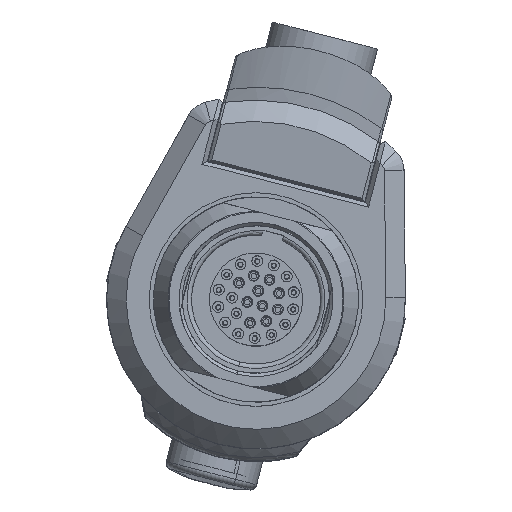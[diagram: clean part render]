
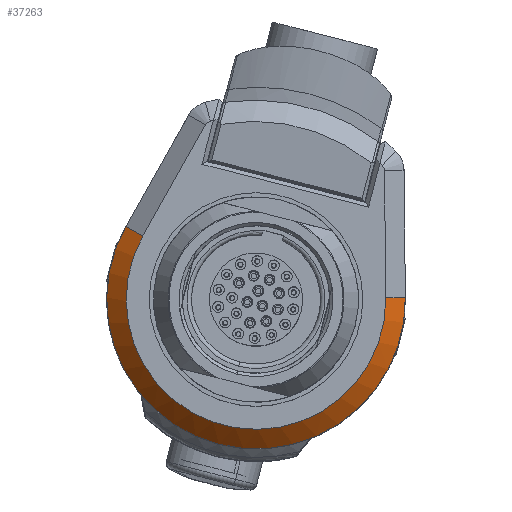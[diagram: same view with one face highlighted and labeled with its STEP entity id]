
A CAD part, top view. The second image highlights one B-rep face of the part: STEP entity #37263.
In plain terms, the highlighted conical face has half-angle 45 degrees and reference radius 17.462 mm.
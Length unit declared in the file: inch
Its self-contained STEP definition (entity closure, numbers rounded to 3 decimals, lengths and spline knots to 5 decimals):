
#3411 = CARTESIAN_POINT ( 'NONE',  ( 0.30293, -0.3706, 4.19649 ) ) ;
#3412 = CARTESIAN_POINT ( 'NONE',  ( 0.27294, -0.37097, 4.22649 ) ) ;
#3413 = CARTESIAN_POINT ( 'NONE',  ( 0.24294, -0.37133, 4.25649 ) ) ;
#3414 = CARTESIAN_POINT ( 'NONE',  ( 0.21294, -0.3717, 4.28649 ) ) ;
#3416 = LINE ( 'NONE', #3417, #42519 ) ;
#3417 = CARTESIAN_POINT ( 'NONE',  ( -0.98336, -0.04264, 4.19649 ) ) ;
#3418 = DIRECTION ( 'NONE',  ( 0.616, -0.347, 0.707 ) ) ;
#9686 = CARTESIAN_POINT ( 'NONE',  ( -0.3845, -0.38031, 4.19649 ) ) ;
#9687 = DIRECTION ( 'NONE',  ( 0., 0., -1. ) ) ;
#9688 = DIRECTION ( 'NONE',  ( 0.249, 0.969, 0. ) ) ;
#9877 = CARTESIAN_POINT ( 'NONE',  ( -0.3845, -0.38031, 4.28649 ) ) ;
#9884 = DIRECTION ( 'NONE',  ( 0., 0., 1. ) ) ;
#9885 = DIRECTION ( 'NONE',  ( 0.249, 0.969, 0. ) ) ;
#30259 = CARTESIAN_POINT ( 'NONE',  ( -0.3845, -0.38031, 4.19649 ) ) ;
#30260 = DIRECTION ( 'NONE',  ( 0., 0., -1. ) ) ;
#30261 = DIRECTION ( 'NONE',  ( 0.249, 0.969, 0. ) ) ;
#33279 = CIRCLE ( 'NONE', #42515, 0.6875 ) ;
#33301 = CIRCLE ( 'NONE', #42473, 0.5975 ) ;
#33350 = CIRCLE ( 'NONE', #68041, 0.6875 ) ;
#33581 = CONICAL_SURFACE ( 'NONE', #57427, 0.6875, 0.785 ) ;
#34198 = EDGE_CURVE ( 'NONE', #72217, #72455, #66418, .T. ) ;
#34199 = EDGE_CURVE ( 'NONE', #57899, #72449, #3416, .T. ) ;
#34210 = EDGE_CURVE ( 'NONE', #72217, #57903, #33279, .T. ) ;
#34269 = EDGE_CURVE ( 'NONE', #72449, #72455, #33301, .T. ) ;
#34500 = EDGE_CURVE ( 'NONE', #57903, #57899, #33350, .T. ) ;
#37263 = ADVANCED_FACE ( 'NONE', ( #57429 ), #33581, .T. ) ;
#42473 = AXIS2_PLACEMENT_3D ( 'NONE', #9877, #9884, #9885 ) ;
#42515 = AXIS2_PLACEMENT_3D ( 'NONE', #9686, #9687, #9688 ) ;
#42519 = VECTOR ( 'NONE', #3418, 39.37008 ) ;
#45298 = ORIENTED_EDGE ( 'NONE', *, *, #34210, .F. ) ;
#45300 = ORIENTED_EDGE ( 'NONE', *, *, #34199, .F. ) ;
#45302 = ORIENTED_EDGE ( 'NONE', *, *, #34198, .T. ) ;
#45303 = ORIENTED_EDGE ( 'NONE', *, *, #34500, .F. ) ;
#45305 = ORIENTED_EDGE ( 'NONE', *, *, #34269, .F. ) ;
#51159 = CARTESIAN_POINT ( 'NONE',  ( -0.98336, -0.04264, 4.19649 ) ) ;
#51162 = CARTESIAN_POINT ( 'NONE',  ( -0.55566, -1.04616, 4.19649 ) ) ;
#54147 = CARTESIAN_POINT ( 'NONE',  ( -0.3845, -0.38031, 4.19649 ) ) ;
#54148 = DIRECTION ( 'NONE',  ( 0., 0., -1. ) ) ;
#54149 = DIRECTION ( 'NONE',  ( 0.249, 0.969, 0. ) ) ;
#57427 = AXIS2_PLACEMENT_3D ( 'NONE', #54147, #54148, #54149 ) ;
#57429 = FACE_OUTER_BOUND ( 'NONE', #61160, .T. ) ;
#57899 = VERTEX_POINT ( 'NONE', #51159 ) ;
#57903 = VERTEX_POINT ( 'NONE', #51162 ) ;
#61160 = EDGE_LOOP ( 'NONE', ( #45302, #45305, #45300, #45303, #45298 ) ) ;
#66418 = B_SPLINE_CURVE_WITH_KNOTS ( 'NONE', 3,
 ( #3411, #3412, #3413, #3414 ),
 .UNSPECIFIED., .F., .F.,
 ( 4, 4 ),
 ( 0., 0.00323 ),
 .UNSPECIFIED. ) ;
#66518 = CARTESIAN_POINT ( 'NONE',  ( 0.30293, -0.3706, 4.19649 ) ) ;
#66604 = CARTESIAN_POINT ( 'NONE',  ( -0.90496, -0.08685, 4.28649 ) ) ;
#66607 = CARTESIAN_POINT ( 'NONE',  ( 0.21294, -0.3717, 4.28649 ) ) ;
#68041 = AXIS2_PLACEMENT_3D ( 'NONE', #30259, #30260, #30261 ) ;
#72217 = VERTEX_POINT ( 'NONE', #66518 ) ;
#72449 = VERTEX_POINT ( 'NONE', #66604 ) ;
#72455 = VERTEX_POINT ( 'NONE', #66607 ) ;
